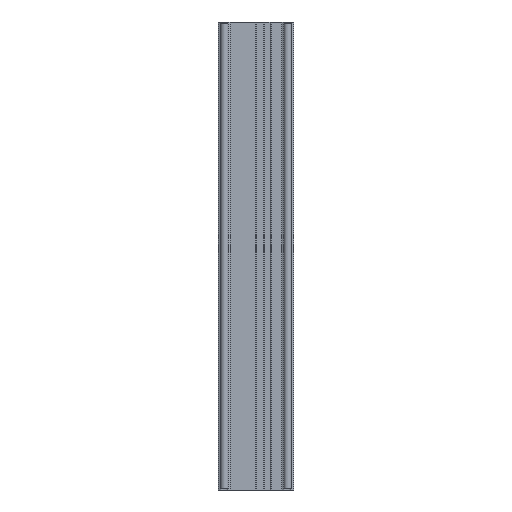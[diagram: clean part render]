
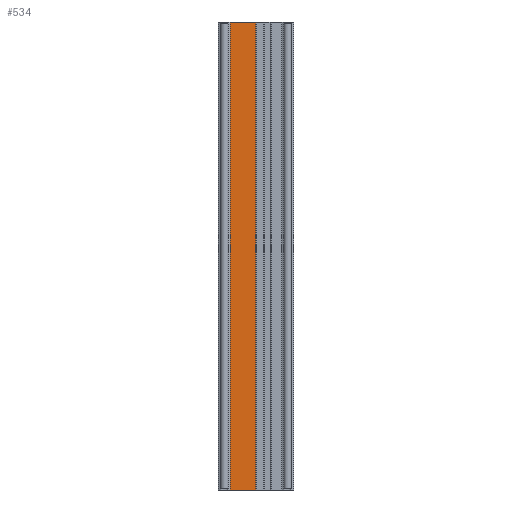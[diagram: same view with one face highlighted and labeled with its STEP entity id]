
A CAD part, left-side view. The second image highlights one B-rep face of the part: STEP entity #534.
In plain terms, the highlighted planar face has unit normal (-1, 0, 0).
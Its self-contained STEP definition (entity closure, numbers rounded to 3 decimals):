
#534 = ADVANCED_FACE ( 'NONE', ( #4088 ), #4018, .T. ) ;
#535 = EDGE_LOOP ( 'NONE', ( #536, #539, #542, #544 ) ) ;
#536 = ORIENTED_EDGE ( 'NONE', *, *, #537, .F. ) ;
#537 = EDGE_CURVE ( 'NONE', #538, #626, #4013, .T. ) ;
#538 = VERTEX_POINT ( 'NONE', #4009 ) ;
#539 = ORIENTED_EDGE ( 'NONE', *, *, #540, .F. ) ;
#540 = EDGE_CURVE ( 'NONE', #541, #538, #4008, .T. ) ;
#541 = VERTEX_POINT ( 'NONE', #4004 ) ;
#542 = ORIENTED_EDGE ( 'NONE', *, *, #543, .T. ) ;
#543 = EDGE_CURVE ( 'NONE', #541, #600, #4003, .T. ) ;
#544 = ORIENTED_EDGE ( 'NONE', *, *, #599, .T. ) ;
#599 = EDGE_CURVE ( 'NONE', #600, #626, #4045, .T. ) ;
#600 = VERTEX_POINT ( 'NONE', #4041 ) ;
#626 = VERTEX_POINT ( 'NONE', #4126 ) ;
#4000 = DIRECTION ( 'NONE',  ( 0., -1., 0. ) ) ;
#4001 = VECTOR ( 'NONE', #4000, 1000. ) ;
#4002 = CARTESIAN_POINT ( 'NONE',  ( -40., 40.3, -249. ) ) ;
#4003 = LINE ( 'NONE', #4002, #4001 ) ;
#4004 = CARTESIAN_POINT ( 'NONE',  ( -40., 67.222, -249. ) ) ;
#4005 = DIRECTION ( 'NONE',  ( 0., 0., 1. ) ) ;
#4006 = VECTOR ( 'NONE', #4005, 1000. ) ;
#4007 = CARTESIAN_POINT ( 'NONE',  ( -40., 67.222, -249. ) ) ;
#4008 = LINE ( 'NONE', #4007, #4006 ) ;
#4009 = CARTESIAN_POINT ( 'NONE',  ( -40., 67.222, 249. ) ) ;
#4010 = DIRECTION ( 'NONE',  ( 0., -1., 0. ) ) ;
#4011 = VECTOR ( 'NONE', #4010, 1000. ) ;
#4012 = CARTESIAN_POINT ( 'NONE',  ( -40., 40.3, 249. ) ) ;
#4013 = LINE ( 'NONE', #4012, #4011 ) ;
#4014 = DIRECTION ( 'NONE',  ( 0., -1., 0. ) ) ;
#4015 = DIRECTION ( 'NONE',  ( -1., 0., 0. ) ) ;
#4016 = CARTESIAN_POINT ( 'NONE',  ( -40., 40.3, -249. ) ) ;
#4017 = AXIS2_PLACEMENT_3D ( 'NONE', #4016, #4015, #4014 ) ;
#4018 = PLANE ( 'NONE',  #4017 ) ;
#4041 = CARTESIAN_POINT ( 'NONE',  ( -40., 40.3, -249. ) ) ;
#4042 = DIRECTION ( 'NONE',  ( 0., 0., 1. ) ) ;
#4043 = VECTOR ( 'NONE', #4042, 1000. ) ;
#4044 = CARTESIAN_POINT ( 'NONE',  ( -40., 40.3, -249. ) ) ;
#4045 = LINE ( 'NONE', #4044, #4043 ) ;
#4088 = FACE_OUTER_BOUND ( 'NONE', #535, .T. ) ;
#4126 = CARTESIAN_POINT ( 'NONE',  ( -40., 40.3, 249. ) ) ;
